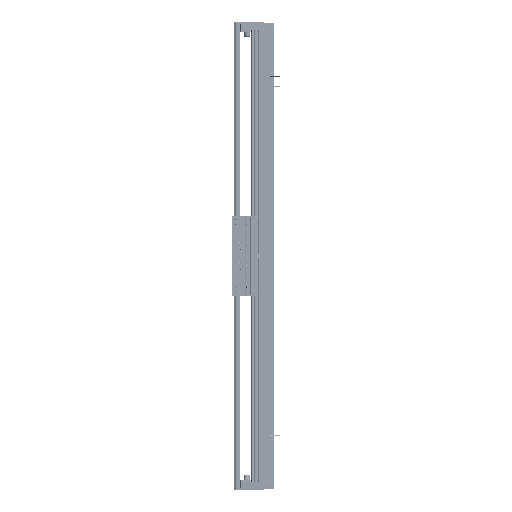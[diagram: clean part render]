
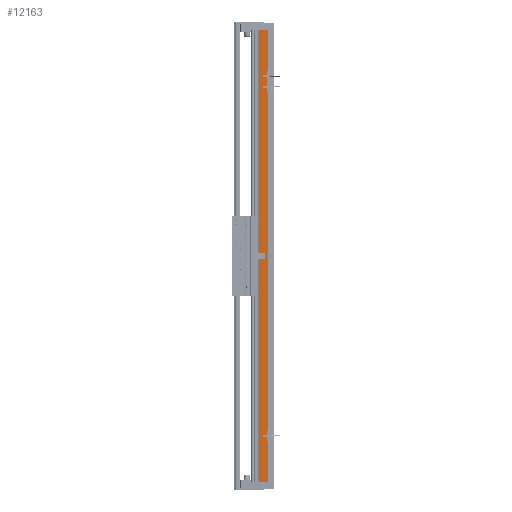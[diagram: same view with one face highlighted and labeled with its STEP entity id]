
A CAD part, left-side view. The second image highlights one B-rep face of the part: STEP entity #12163.
In plain terms, the highlighted planar face has unit normal (-1, 0, 0).
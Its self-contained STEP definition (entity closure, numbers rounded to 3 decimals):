
#118 = DIRECTION ( 'NONE',  ( 0., -1., 0. ) ) ;
#12163 = ADVANCED_FACE ( 'NONE', ( #58725 ), #123433, .F. ) ;
#13702 = DIRECTION ( 'NONE',  ( 0., 1., 0. ) ) ;
#22991 = DIRECTION ( 'NONE',  ( 0., -1., 0. ) ) ;
#25371 = LINE ( 'NONE', #69671, #136868 ) ;
#34053 = CARTESIAN_POINT ( 'NONE',  ( -97.5, 36.95, 540. ) ) ;
#36289 = CARTESIAN_POINT ( 'NONE',  ( -97.5, 36.95, 540. ) ) ;
#40615 = ORIENTED_EDGE ( 'NONE', *, *, #119762, .F. ) ;
#44242 = ORIENTED_EDGE ( 'NONE', *, *, #56397, .T. ) ;
#44706 = VECTOR ( 'NONE', #141682, 1000. ) ;
#49453 = VERTEX_POINT ( 'NONE', #108209 ) ;
#53408 = ORIENTED_EDGE ( 'NONE', *, *, #90478, .F. ) ;
#54039 = ORIENTED_EDGE ( 'NONE', *, *, #116710, .T. ) ;
#55702 = CARTESIAN_POINT ( 'NONE',  ( -97.5, 36.95, 540. ) ) ;
#56397 = EDGE_CURVE ( 'NONE', #49453, #122647, #78556, .T. ) ;
#58725 = FACE_OUTER_BOUND ( 'NONE', #66050, .T. ) ;
#65725 = VERTEX_POINT ( 'NONE', #82825 ) ;
#66050 = EDGE_LOOP ( 'NONE', ( #44242, #40615, #53408, #54039 ) ) ;
#67590 = VECTOR ( 'NONE', #22991, 1000. ) ;
#67674 = CARTESIAN_POINT ( 'NONE',  ( -97.5, 36.95, -540. ) ) ;
#69671 = CARTESIAN_POINT ( 'NONE',  ( -97.5, 36.95, 540. ) ) ;
#78556 = LINE ( 'NONE', #67674, #102683 ) ;
#81246 = DIRECTION ( 'NONE',  ( 1., 0., 0. ) ) ;
#82825 = CARTESIAN_POINT ( 'NONE',  ( -97.5, 14.45, 540. ) ) ;
#86455 = CARTESIAN_POINT ( 'NONE',  ( -97.5, 14.45, 540. ) ) ;
#90478 = EDGE_CURVE ( 'NONE', #135003, #65725, #123269, .T. ) ;
#102683 = VECTOR ( 'NONE', #118, 1000. ) ;
#106175 = CARTESIAN_POINT ( 'NONE',  ( -97.5, 14.45, -540. ) ) ;
#108209 = CARTESIAN_POINT ( 'NONE',  ( -97.5, 36.95, -540. ) ) ;
#110406 = LINE ( 'NONE', #86455, #44706 ) ;
#116710 = EDGE_CURVE ( 'NONE', #135003, #49453, #25371, .T. ) ;
#119762 = EDGE_CURVE ( 'NONE', #65725, #122647, #110406, .T. ) ;
#122647 = VERTEX_POINT ( 'NONE', #106175 ) ;
#123269 = LINE ( 'NONE', #55702, #67590 ) ;
#123433 = PLANE ( 'NONE',  #142646 ) ;
#135003 = VERTEX_POINT ( 'NONE', #36289 ) ;
#135834 = DIRECTION ( 'NONE',  ( 0., 0., -1. ) ) ;
#136868 = VECTOR ( 'NONE', #135834, 1000. ) ;
#141682 = DIRECTION ( 'NONE',  ( 0., 0., -1. ) ) ;
#142646 = AXIS2_PLACEMENT_3D ( 'NONE', #34053, #81246, #13702 ) ;
